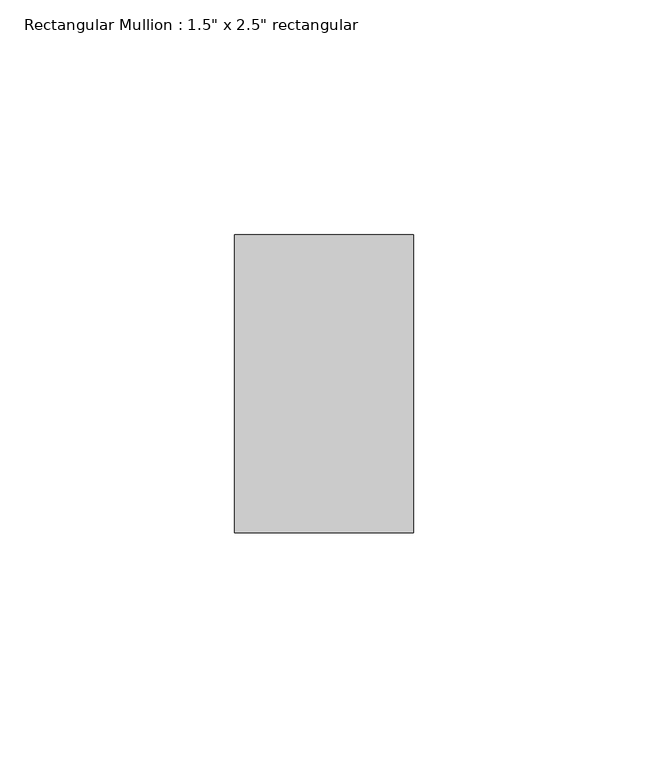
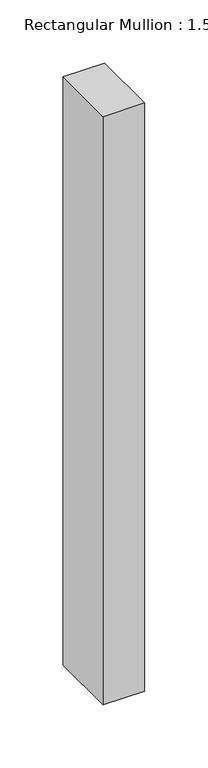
"""IFC4 building model written with IfcOpenShell, lengths in millimetres: member geometry."""

from ifc_helpers import new_model, si_unit, frame, origin, place, context, project, spatial, polyline, outline, extrude, source, transform, mapped, element, save


def member_4764b96e(model_context):
    return source(origin(), model_context, "Body", "SweptSolid", [
        extrude(outline(polyline([(0.0, 31.75), (0.0, -31.75), (-38.1, -31.75), (-38.1, 31.75), (0.0, 31.75)])), frame((0.0, 0.0, -568.5009366), z_axis=(0.0, 0.0, 1.0), x_axis=(1.0, 0.0, 0.0)), (0.0, 0.0, 1.0), 568.5009366),
    ])


if __name__ == "__main__":
    model = new_model("IFC4")
    model_context = context("Model", 3, world=origin())
    ifc_project = project(units=[si_unit("LENGTHUNIT", "METRE", prefix="MILLI")], contexts=[model_context])
    site = spatial("IfcSite", under=ifc_project)
    building = spatial("IfcBuilding", under=site)
    placement = place(None, origin())
    member_shape = member_4764b96e(model_context)
    element("IfcMember", 1, ObjectType="Rectangular Mullion : 1.5\" x 2.5\" rectangular", at=placement, inside=building, context=model_context, shape_type="MappedRepresentation", body=[
        mapped(member_shape, transform((0.0, 0.0, 0.0), x_axis=(1.0, 0.0, 0.0), y_axis=(0.0, 1.0, 0.0), z_axis=(0.0, 0.0, 1.0))),
    ])
    save(model, "model.ifc")
